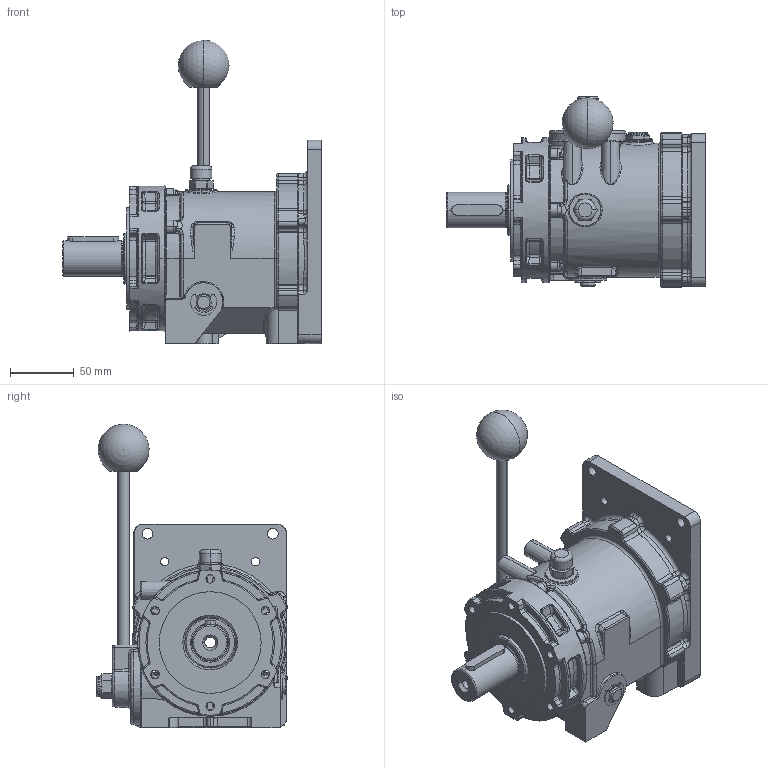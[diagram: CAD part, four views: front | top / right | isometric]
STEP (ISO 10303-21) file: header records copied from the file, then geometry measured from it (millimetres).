
FILE_DESCRIPTION (( 'STEP AP203' ), '1' );
FILE_NAME ('30300.STEP', '2020-04-30T09:25:36', ( '' ), ( '' ), 'SwSTEP 2.0', 'SolidWorks 2020', '' );
FILE_SCHEMA (( 'CONFIG_CONTROL_DESIGN' ));
Length unit declared in the file: millimetre
Products named in the file (1): 30300
Bounding box: 203.3 x 150.03 x 238.55 mm (x, y, z)
Surface area: 175759.4 mm2 (no closed solid volume)
Topology: 0 solids, 29 shells, 1698 faces, 4473 edges, 2732 vertices
Faces by surface type: cylinder 470, bspline 370, plane 355, torus 272, cone 143, sphere 88
Entity records: 64458 total; most frequent: CARTESIAN_POINT 25801, ORIENTED_EDGE 8143, DIRECTION 7838, EDGE_CURVE 4406, AXIS2_PLACEMENT_3D 3317, VERTEX_POINT 2724, CIRCLE 1988, EDGE_LOOP 1795
